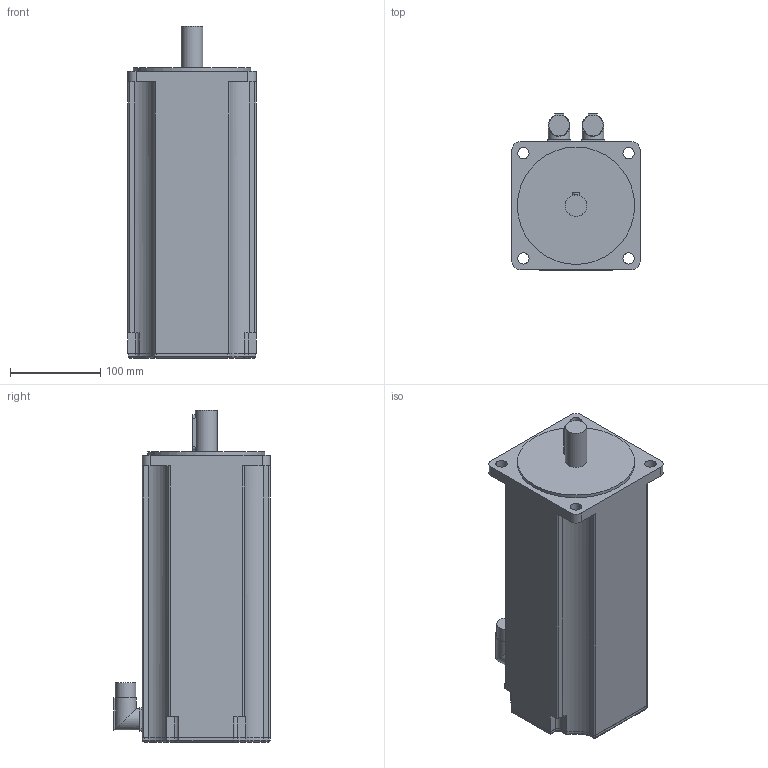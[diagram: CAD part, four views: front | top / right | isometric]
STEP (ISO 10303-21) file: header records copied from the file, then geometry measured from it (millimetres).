
FILE_DESCRIPTION(/* description */ (''),/* implementation_level */ '2;1');
FILE_NAME(/* name */ '\\Lafnas01\disegni\Archivi Lafert\3D\CAD 3D\MODELLI\Assiemi clienti\Serad\Modelli 3D Serad\B71Q\Resolver\Res With Brake\B7126Qxx6B052033.ipt.stp',/* time_stamp */ '2015-09-07T10:52:53+02:00',/* author */ ('Pastrello Ylenia'),/* organization */ (''),/* preprocessor_version */ 'ST-DEVELOPER v15.6',/* originating_system */ 'Autodesk Inventor 2015',/* authorisation */ '');
FILE_SCHEMA (('AUTOMOTIVE_DESIGN { 1 0 10303 214 3 1 1 }'));
Length unit declared in the file: millimetre
Products named in the file (1): B7126Qxx6B052033
Bounding box: 142 x 173.5 x 368 mm (x, y, z)
Volume: 5659736.6 mm3; surface area: 219823 mm2
Topology: 1 solids, 1 shells, 154 faces, 400 edges, 258 vertices
Faces by surface type: plane 72, cylinder 70, torus 8, sphere 4
Full cylindrical faces by diameter (mm): 12.5 x4, 22.7 x2, 24 x3, 130 x1
Entity records: 4790 total; most frequent: CARTESIAN_POINT 933, DIRECTION 828, ORIENTED_EDGE 772, EDGE_CURVE 386, AXIS2_PLACEMENT_3D 297, VERTEX_POINT 254, LINE 234, VECTOR 234
